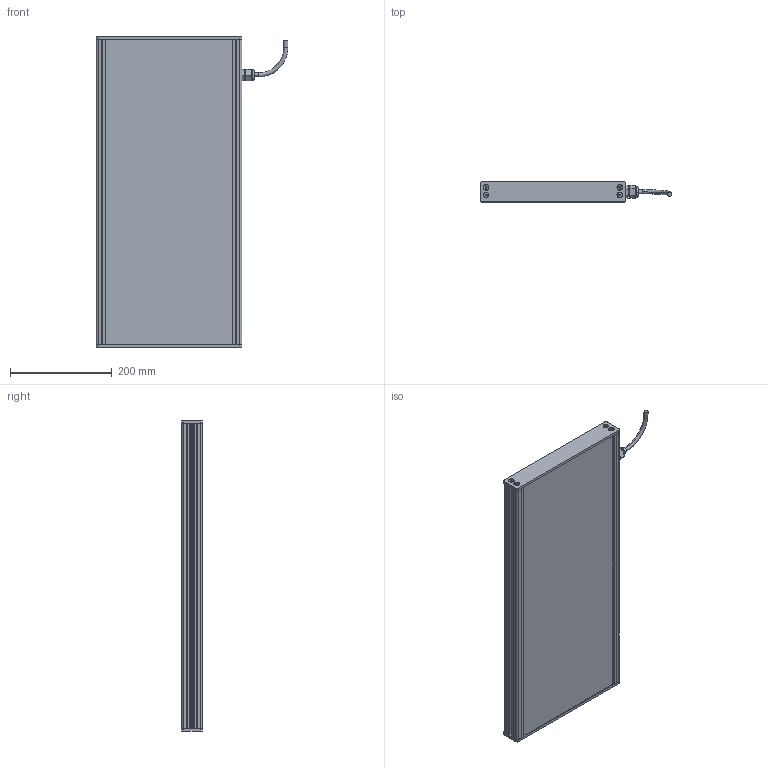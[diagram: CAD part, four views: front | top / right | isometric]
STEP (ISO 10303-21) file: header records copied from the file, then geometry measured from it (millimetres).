
FILE_DESCRIPTION (( 'STEP AP214' ), '1' );
FILE_NAME ('EFFI-BL-250-600T-1M12P.STEP', '2021-07-02T09:21:58', ( '' ), ( '' ), 'SwSTEP 2.0', 'SolidWorks 2021', '' );
FILE_SCHEMA (( 'AUTOMOTIVE_DESIGN' ));
Length unit declared in the file: millimetre
Products named in the file (7): profile modif_lg 99.5 mm; 003776; bord fin modif_lg 436.5 mm; EFFI-BL-250-600T-1M12P; Pièce2^EFFI-BL-XXX-YYYT + M12P; M12 power
Assembly tree (14 placements, depth 2):
  EFFI-BL-250-600T-1M12P
    bord fin modif_lg 436.5 mm  x2
    profile modif_lg 99.5 mm
    Pièce2^EFFI-BL-XXX-YYYT + M12P
    profile modif_lg 99.5 mm
    M12 power
    003776  x8
Bounding box: 376.45 x 40 x 610 mm (x, y, z)
Volume: 6015551.6 mm3; surface area: 593225.6 mm2
Topology: 13 solids, 16 shells, 568 faces, 1441 edges, 923 vertices
Faces by surface type: plane 327, bspline 125, cylinder 94, cone 18, torus 4
Entity records: 15235 total; most frequent: CARTESIAN_POINT 5059, ORIENTED_EDGE 2014, DIRECTION 1715, EDGE_CURVE 1009, LINE 755, VECTOR 755, VERTEX_POINT 666, AXIS2_PLACEMENT_3D 480
